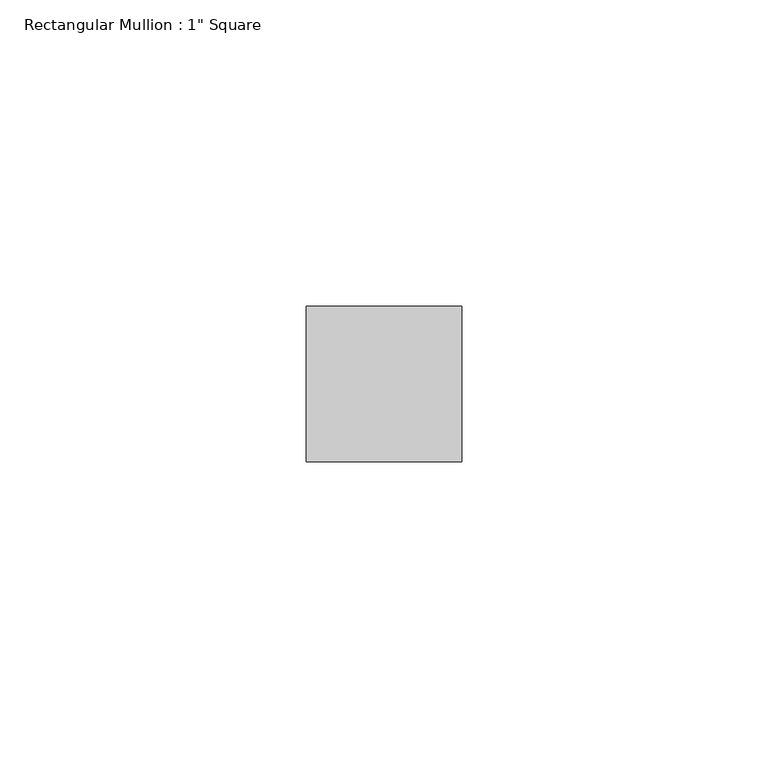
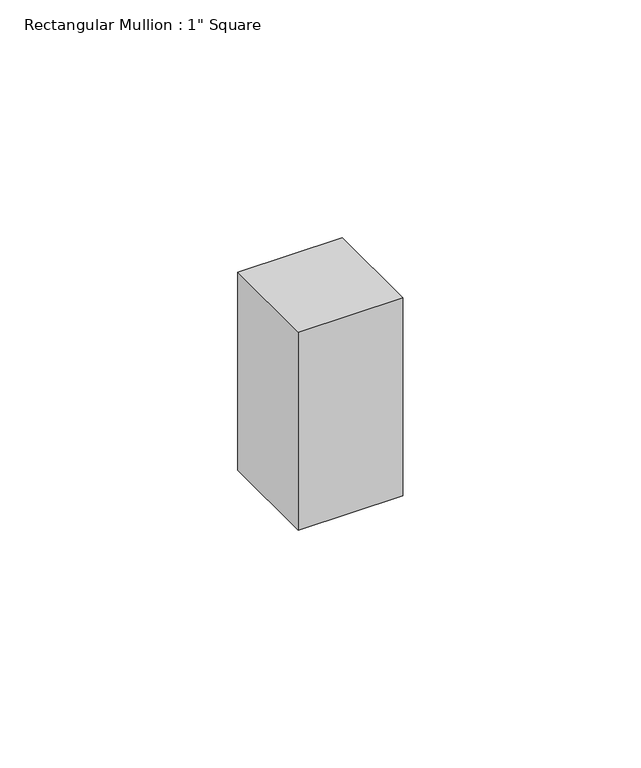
"""IFC4 building model written with IfcOpenShell, lengths in millimetres: member geometry."""

import ifcopenshell
import ifcopenshell.guid

model = None  # the IFC model being written
_history = None  # IfcOwnerHistory: only IFC2X3 demands one
_inside = {}  # id of a spatial element -> (the spatial element, [elements in it])
_under = {}  # id of a project, library or spatial element -> (it, [spatial elements below it])
_declared = {}  # id of a project -> (the project, [libraries it declares])
_typed = {}  # id of a type object -> (the type object, [elements of that type])
_made_of = {}  # id of a material, layer set ... -> (it, [elements and type objects made of it])


def new_model(schema):
    """Start an empty IFC model of exactly this schema.

    Asked for "IFC4X3", IfcOpenShell would pick the latest addendum, in which some entities
    have other attributes; the version numbers below select the first issue.
    IFC2X3 requires an IfcOwnerHistory on every rooted entity: one is made here for all.
    """
    global model, _history
    if schema == "IFC4X3":
        model = ifcopenshell.file(schema_version=(4, 3, 0, 0))
    else:
        model = ifcopenshell.file(schema=schema)
    _inside.clear()
    _under.clear()
    _declared.clear()
    _typed.clear()
    _made_of.clear()
    _history = None
    if model.schema == "IFC2X3":
        org = make("IfcOrganization", Name="unknown")
        user = make(
            "IfcPersonAndOrganization",
            ThePerson=make("IfcPerson", FamilyName="unknown"),
            TheOrganization=org,
        )
        app = make(
            "IfcApplication",
            ApplicationDeveloper=org,
            Version="unknown",
            ApplicationFullName="unknown",
            ApplicationIdentifier="unknown",
        )
        _history = make(
            "IfcOwnerHistory",
            OwningUser=user,
            OwningApplication=app,
            ChangeAction="ADDED",
            CreationDate=0,
        )
    return model


def make(cls, **values):
    """One entity of the class cls with the attributes given. An attribute that is None is left unset."""
    return model.create_entity(
        cls, **{name: value for name, value in values.items() if value is not None}
    )


def rooted(cls, **values):
    """An entity with a GlobalId (a new one), such as an element, a storey or a relation."""
    return make(cls, GlobalId=ifcopenshell.guid.new(), OwnerHistory=_history, **values)


def si_unit(unit_type, name, prefix=None):
    """IfcSIUnit, for example si_unit("LENGTHUNIT", "METRE", prefix="MILLI")."""
    return make("IfcSIUnit", UnitType=unit_type, Prefix=prefix, Name=name)


def assignment(units):
    """IfcUnitAssignment: the units of a project."""
    return None if units is None else make("IfcUnitAssignment", Units=units)


def point(xyz):
    """IfcCartesianPoint."""
    return None if xyz is None else make("IfcCartesianPoint", Coordinates=xyz)


def direction(xyz):
    """IfcDirection."""
    return None if xyz is None else make("IfcDirection", DirectionRatios=xyz)


def frame(location, z_axis=None, x_axis=None):
    """IfcAxis2Placement3D, a coordinate frame: its origin and axes. An axis left out is left unset."""
    return make(
        "IfcAxis2Placement3D",
        Location=point(location),
        Axis=direction(z_axis),
        RefDirection=direction(x_axis),
    )


def origin():
    """The frame at (0, 0, 0) with its axes left unset."""
    return frame((0.0, 0.0, 0.0))


def place(relative_to, where):
    """IfcLocalPlacement: puts the frame where relative to a parent placement (None: the world)."""
    return make(
        "IfcLocalPlacement", PlacementRelTo=relative_to, RelativePlacement=where
    )


def context(
    kind, dimensions, precision=None, world=None, true_north=None, identifier=None
):
    """IfcGeometricRepresentationContext, for example the 3D "Model" context."""
    return make(
        "IfcGeometricRepresentationContext",
        ContextIdentifier=identifier,
        ContextType=kind,
        CoordinateSpaceDimension=dimensions,
        Precision=precision,
        WorldCoordinateSystem=world,
        TrueNorth=true_north,
    )


def project(units=None, contexts=None):
    """IfcProject with its units and contexts."""
    return rooted(
        "IfcProject",
        Name="project",
        RepresentationContexts=contexts,
        UnitsInContext=assignment(units),
    )


def spatial(cls, under=None, at=None, **own):
    """A site, building, storey or space (cls), placed at a placement, below another one or the project."""
    s = rooted(cls, ObjectPlacement=at, **own)
    if under is not None:
        _under.setdefault(under.id(), (under, []))[1].append(s)
    return s


def polyline(points):
    """IfcPolyline through the points."""
    return make("IfcPolyline", Points=[point(p) for p in points])


def outline(outer, holes=None, kind="AREA"):
    """IfcArbitraryClosedProfileDef: a profile drawn as a closed curve; with holes, ...WithVoids."""
    if holes is None:
        return make("IfcArbitraryClosedProfileDef", ProfileType=kind, OuterCurve=outer)
    return make(
        "IfcArbitraryProfileDefWithVoids",
        ProfileType=kind,
        OuterCurve=outer,
        InnerCurves=holes,
    )


def extrude(swept, where, along, depth):
    """IfcExtrudedAreaSolid: the profile swept, set in the frame where, extruded along a direction by depth."""
    return make(
        "IfcExtrudedAreaSolid",
        SweptArea=swept,
        Position=where,
        ExtrudedDirection=direction(along),
        Depth=depth,
    )


def shape(context_of_items, identifier, shape_type, items):
    """IfcShapeRepresentation: the items that make up one representation, for example the "Body"."""
    return make(
        "IfcShapeRepresentation",
        ContextOfItems=context_of_items,
        RepresentationIdentifier=identifier,
        RepresentationType=shape_type,
        Items=items,
    )


def source(mapping_origin, context_of_items, identifier, shape_type, items):
    """IfcRepresentationMap: a shape defined once, which mapped items show again and again."""
    return make(
        "IfcRepresentationMap",
        MappingOrigin=mapping_origin,
        MappedRepresentation=shape(context_of_items, identifier, shape_type, items),
    )


def transform(
    local_origin,
    x_axis=None,
    y_axis=None,
    z_axis=None,
    scale=None,
    scale2=None,
    scale3=None,
    uniform=True,
):
    """IfcCartesianTransformationOperator3D, or its non-uniform kind. x_axis, y_axis, z_axis: its Axis1, 2, 3."""
    if uniform:
        return make(
            "IfcCartesianTransformationOperator3D",
            Axis1=direction(x_axis),
            Axis2=direction(y_axis),
            LocalOrigin=point(local_origin),
            Scale=scale,
            Axis3=direction(z_axis),
        )
    return make(
        "IfcCartesianTransformationOperator3DnonUniform",
        Axis1=direction(x_axis),
        Axis2=direction(y_axis),
        LocalOrigin=point(local_origin),
        Scale=scale,
        Axis3=direction(z_axis),
        Scale2=scale2,
        Scale3=scale3,
    )


def mapped(mapping_source, mapping_target):
    """IfcMappedItem: shows the shape of a source again, moved by a transform."""
    return make(
        "IfcMappedItem", MappingSource=mapping_source, MappingTarget=mapping_target
    )


def made_of(thing, what):
    """Note that an element or type object is made of a material, layer set ...; save() writes the relation."""
    if what is not None:
        _made_of.setdefault(what.id(), (what, []))[1].append(thing)
    return thing


def element(
    cls,
    number,
    at=None,
    inside=None,
    cuts=None,
    type_object=None,
    material=None,
    context=None,
    identifier="Body",
    shape_type=None,
    held_by="IfcProductDefinitionShape",
    body=None,
    shapes=None,
    **own,
):
    """One element of the class cls, such as IfcWall. Its Tag is "e" and its number.

    at: its placement. inside: the storey or other place that contains it. cuts: it is an
    opening in that element (IfcRelVoidsElement). A single representation is given by context,
    identifier, shape_type and body (its items); several are given by shapes. held_by: the class
    of the entity that holds the representations. save() writes the other relations.
    """
    e = rooted(cls, Tag="e%d" % number, ObjectPlacement=at, **own)
    if body is not None:
        shapes = [shape(context, identifier, shape_type, body)]
    if shapes is not None:
        e.Representation = make(held_by, Representations=shapes)
    if inside is not None:
        _inside.setdefault(inside.id(), (inside, []))[1].append(e)
    if cuts is not None:
        rooted(
            "IfcRelVoidsElement", RelatingBuildingElement=cuts, RelatedOpeningElement=e
        )
    if type_object is not None:
        _typed.setdefault(type_object.id(), (type_object, []))[1].append(e)
    return made_of(e, material)


def aggregate(whole, parts):
    """IfcRelAggregates: a whole, such as a stair, and the parts it consists of."""
    return rooted("IfcRelAggregates", RelatingObject=whole, RelatedObjects=parts)


def save(model, path):
    """Write the relations noted so far, then the file.

    IfcRelAggregates (storeys below a building ...), IfcRelContainedInSpatialStructure (elements
    in a storey), IfcRelDefinesByType, IfcRelAssociatesMaterial and IfcRelDeclares: one each for
    every whole, place, type object, material and project.
    """
    for whole, parts in _under.values():
        aggregate(whole, parts)
    for where, things in _inside.values():
        rooted(
            "IfcRelContainedInSpatialStructure",
            RelatedElements=things,
            RelatingStructure=where,
        )
    for kind, things in _typed.values():
        rooted("IfcRelDefinesByType", RelatedObjects=things, RelatingType=kind)
    for what, things in _made_of.values():
        rooted("IfcRelAssociatesMaterial", RelatedObjects=things, RelatingMaterial=what)
    for by, libraries in _declared.values():
        rooted("IfcRelDeclares", RelatingContext=by, RelatedDefinitions=libraries)
    model.write(path)


def member_040a25f9(model_context):
    return source(origin(), model_context, "Body", "SweptSolid", [
        extrude(outline(polyline([(12.7, 12.7), (12.7, -12.7), (-12.7, -12.7), (-12.7, 12.7), (12.7, 12.7)])), frame((0.0, 0.0, -50.7412419), z_axis=(0.0, 0.0, 1.0), x_axis=(1.0, 0.0, 0.0)), (0.0, 0.0, 1.0), 50.7412419),
    ])


if __name__ == "__main__":
    model = new_model("IFC4")
    model_context = context("Model", 3, world=origin())
    ifc_project = project(units=[si_unit("LENGTHUNIT", "METRE", prefix="MILLI")], contexts=[model_context])
    site = spatial("IfcSite", under=ifc_project)
    building = spatial("IfcBuilding", under=site)
    placement = place(None, origin())
    member_shape = member_040a25f9(model_context)
    element("IfcMember", 1, ObjectType="Rectangular Mullion : 1\" Square", at=placement, inside=building, context=model_context, shape_type="MappedRepresentation", body=[
        mapped(member_shape, transform((0.0, 0.0, 0.0), x_axis=(1.0, 0.0, 0.0), y_axis=(0.0, 1.0, 0.0), z_axis=(0.0, 0.0, 1.0))),
    ])
    save(model, "model.ifc")
